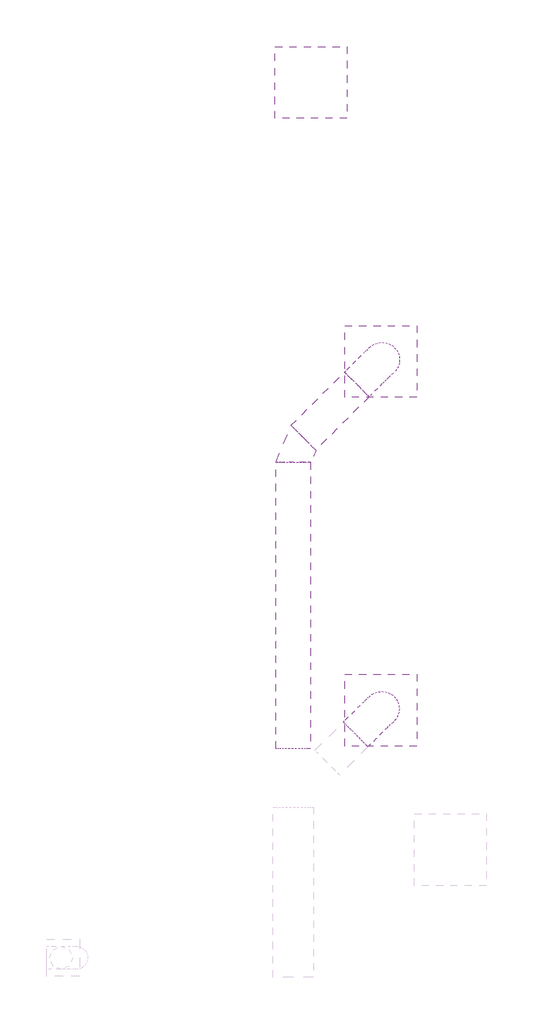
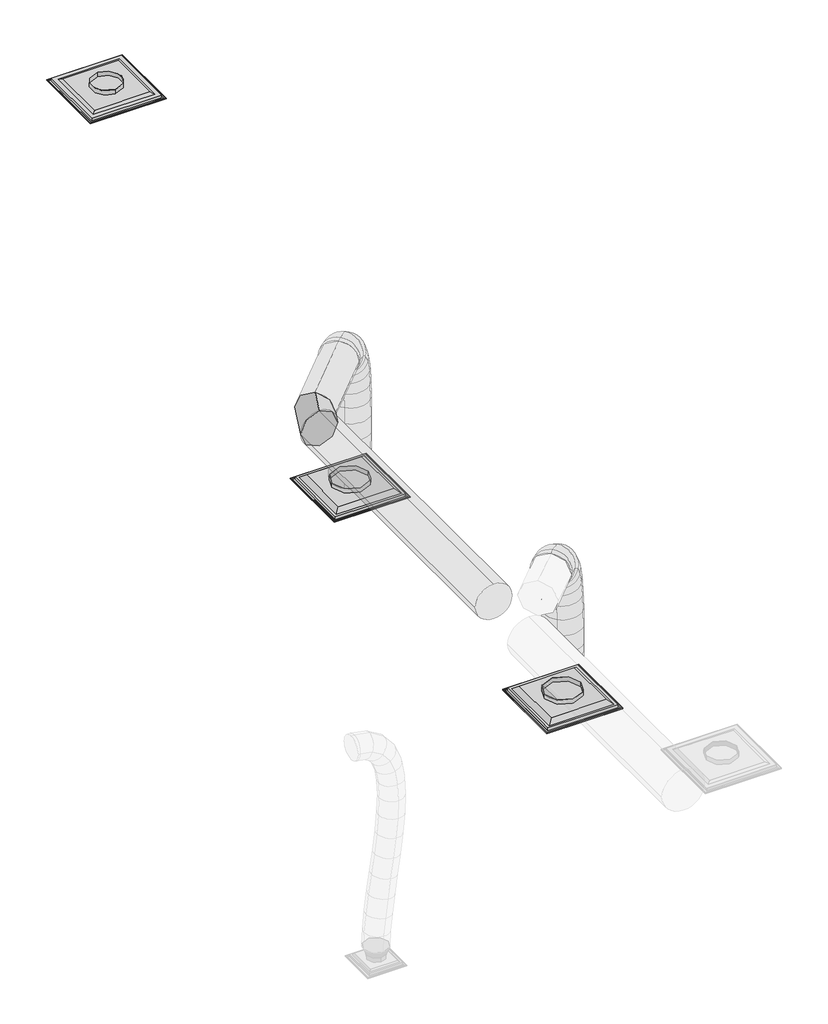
# One storey, part 33 of 33: 4 duct segments, 3 air terminals, 1 duct fitting.
"""IFC4 building model written with IfcOpenShell, lengths in millimetres."""

from ifc_helpers import new_model, si_unit, point, frame, frame_2d, origin, place, context, project, spatial, circle_curve, ellipse_curve, trimmed, segment, composite_curve, outline, extrude, transform, mapped, element, save
from ifc_brep_helpers import plane_surface, cylinder_surface, advanced_brep
from components import air_terminal_a17ada07, par_aa_10_24x24_32668ffe, round_elbow_1_d_28128332

model = new_model("IFC4")

# Units and contexts
model_context = context("Model", 3, world=origin())
ifc_project = project(units=[si_unit("LENGTHUNIT", "METRE", prefix="MILLI")], contexts=[model_context])

# Site, building, storey
site = spatial("IfcSite", under=ifc_project)
building = spatial("IfcBuilding", under=site)
storey = spatial("IfcBuildingStorey", under=building, Name="T.O. SLAB - 1ST", Elevation=-25.4)

# Air terminals
placement = place(None, origin())
air_terminal_shape = air_terminal_a17ada07(model_context)
element("IfcAirTerminal", 1, ObjectType="Titus-Round_Neck_Supply_Diffuser-PCS_Surface_Mount : PCS AA-12_24x24", at=placement, inside=storey, context=model_context, shape_type="MappedRepresentation", body=[
    mapped(air_terminal_shape, transform((36315.65, 32114.0074, 2717.8), x_axis=(1.0, 0.0, 0.0), y_axis=(0.0, -1.0, 0.0), z_axis=(0.0, 0.0, -1.0))),
])
element("IfcAirTerminal", 2, ObjectType="Titus-Round_Neck_Supply_Diffuser-PCS_Surface_Mount : PCS AA-12_24x24", at=placement, inside=storey, context=model_context, shape_type="MappedRepresentation", body=[
    mapped(air_terminal_shape, transform((36315.65, 35162.0115966, 2717.8), x_axis=(1.0, 0.0, 0.0), y_axis=(0.0, -1.0, 0.0), z_axis=(0.0, 0.0, -1.0))),
])
par_aa_10_24x24_shape = par_aa_10_24x24_32668ffe(model_context)
element("IfcAirTerminal", 3, ObjectType="Titus-Round_Neck_Return_Diffuser-PAR_Surface_Mount : PAR AA-10_24x24", at=placement, inside=storey, context=model_context, shape_type="MappedRepresentation", body=[
    mapped(par_aa_10_24x24_shape, transform((35706.05, 37600.4115966, 4940.3), x_axis=(0.0, 1.0, 0.0), y_axis=(1.0, 0.0, 0.0), z_axis=(0.0, 0.0, -1.0))),
])

# Duct fitting
round_elbow_1_d_shape = round_elbow_1_d_28128332(model_context)
element("IfcDuctFitting", 4, ObjectType="Round Elbow : 1 D", at=placement, inside=storey, context=model_context, shape_type="MappedRepresentation", body=[
    mapped(round_elbow_1_d_shape, transform((35550.5577376, 34405.4505335, 4038.6), x_axis=(-0.7071067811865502, -0.7071067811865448, 0.0), y_axis=(0.7071067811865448, -0.7071067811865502, 0.0), z_axis=(0.0, 0.0, 1.0))),
])

# Duct segments
element("IfcDuctSegment", 5, ObjectType="Flex - Round", at=placement, inside=storey, context=model_context, shape_type="AdvancedBrep", body=[
    advanced_brep(
    [(35989.1323964, 32010.5774552, 4038.6), (36096.8954698, 31902.8143818, 3886.2), (36204.6585433, 31795.0513083, 4038.6), (36096.8954698, 31902.8143818, 4191.0), (36009.0369028, 32030.4819617, 4038.6), (36103.0570382, 31908.9759502, 3886.2), (36224.3855459, 31814.778311, 4038.6), (36130.3654105, 31936.2843225, 4191.0), (36208.5394368, 32222.4190564, 2806.7), (36424.0616564, 32221.1179632, 2806.7), (36422.7605632, 32005.5957436, 2806.7), (36207.2383436, 32006.8968368, 2806.7), (36061.9271475, 32083.1954211, 4019.3682338), (36124.0534267, 31929.9021584, 3878.5653665), (36276.8737398, 31867.0910634, 4019.5144261), (36214.7474606, 32020.3843261, 4160.3172933), (36117.8859243, 32138.669622, 3965.2953316), (36147.6509234, 31953.2953122, 3855.7631323), (36332.4434791, 31922.1795957, 3965.8174504), (36302.67848, 32107.5539055, 4075.3496497), (36159.0898164, 32179.1501215, 3881.8520348), (36169.5588561, 31974.8186202, 3811.3966893), (36373.4313891, 31962.447905, 3882.8115458), (36362.9623493, 32166.7794063, 3953.2668913), (36187.6280716, 32206.7952475, 3774.5301494), (36190.2104341, 31994.8238893, 3733.7336972), (36401.8929392, 31990.0187264, 3775.7781201), (36399.3105766, 32201.9900846, 3816.5745723), (36205.6144768, 32223.7869036, 3648.7151011), (36205.3703268, 32009.1453549, 3627.6901264), (36419.8590599, 32006.9912198, 3650.1049618), (36420.1032099, 32221.6327685, 3671.1299364), (36215.1405559, 32232.2845895, 3509.7751558), (36214.017669, 32016.8591684, 3501.5667513), (36429.3829448, 32015.4869485, 3511.1970188), (36430.5058317, 32230.9123696, 3519.4054233), (36218.2860106, 32234.4360471, 3363.0861934), (36216.9893816, 32018.8917882, 3362.98029), (36432.5296096, 32017.6392337, 3364.4516254), (36433.8262386, 32233.1834926, 3364.5575287), (36217.1260603, 32232.3845933, 3214.0335204), (36215.8655594, 32016.9042296, 3218.5700508), (36431.3685521, 32015.585822, 3215.2566889), (36432.629053, 32231.0661857, 3210.7201586), (36213.7341977, 32228.271839, 3068.012225), (36212.5128461, 32012.8389452, 3074.234153), (36427.9709972, 32011.4661655, 3068.9903354), (36429.1923488, 32226.8990592, 3062.7684074), (36210.1826685, 32224.2381008, 2930.4296829), (36208.9247512, 32008.7636765, 2935.2350894), (36424.4094164, 32007.4210109, 2931.0184031), (36425.6673338, 32222.8954352, 2926.2129966), (36208.5394368, 32222.4190564, 2809.6290382), (36207.2383436, 32006.8968368, 2811.2604116), (36422.7605632, 32005.5957436, 2809.8045005), (36424.0616564, 32221.1179632, 2808.1731271)],
    [
        (0, 1, circle_curve(frame((36096.8954698, 31902.8143818, 4038.6), z_axis=(-0.7071067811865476, -0.7071067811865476, 0.0), x_axis=(-0.7071067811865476, 0.7071067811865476, 0.0)), 152.4)),
        (1, 2, circle_curve(frame((36096.8954698, 31902.8143818, 4038.6), z_axis=(-0.7071067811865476, -0.7071067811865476, 0.0), x_axis=(-0.7071067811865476, 0.7071067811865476, 0.0)), 152.4)),
        (2, 3, circle_curve(frame((36096.8954698, 31902.8143818, 4038.6), z_axis=(-0.7071067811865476, -0.7071067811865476, 0.0), x_axis=(-0.7071067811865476, 0.7071067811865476, 0.0)), 152.4)),
        (3, 0, circle_curve(frame((36096.8954698, 31902.8143818, 4038.6), z_axis=(-0.7071067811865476, -0.7071067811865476, 0.0), x_axis=(-0.7071067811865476, 0.7071067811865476, 0.0)), 152.4)),
        (0, 4),
        (4, 5, ellipse_curve(frame((36116.7112244, 31922.6301363, 4038.6), z_axis=(-0.7020756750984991, -0.7009201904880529, 0.12570056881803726), x_axis=(-0.08432597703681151, -0.09344522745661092, -0.9920469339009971)), 153.6185189, 152.4)),
        (5, 1),
        (5, 6, ellipse_curve(frame((36116.7112244, 31922.6301363, 4038.6), z_axis=(-0.7020756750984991, -0.7009201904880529, 0.12570056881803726), x_axis=(-0.08432597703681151, -0.09344522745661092, -0.9920469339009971)), 153.6185189, 152.4)),
        (6, 2),
        (6, 7, ellipse_curve(frame((36116.7112244, 31922.6301363, 4038.6), z_axis=(-0.7020756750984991, -0.7009201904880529, 0.12570056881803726), x_axis=(-0.08432597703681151, -0.09344522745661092, -0.9920469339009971)), 153.6185189, 152.4)),
        (7, 3),
        (7, 4, ellipse_curve(frame((36116.7112244, 31922.6301363, 4038.6), z_axis=(-0.7020756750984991, -0.7009201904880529, 0.12570056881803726), x_axis=(-0.08432597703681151, -0.09344522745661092, -0.9920469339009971)), 153.6185189, 152.4)),
        (8, 9, circle_curve(frame((36315.65, 32114.0074, 2806.7), z_axis=(0.0, 0.0, -1.0), x_axis=(-0.7028252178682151, 0.7113625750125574, 0.0)), 152.4)),
        (9, 10, circle_curve(frame((36315.65, 32114.0074, 2806.7), z_axis=(0.0, 0.0, -1.0), x_axis=(-0.7028252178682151, 0.7113625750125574, 0.0)), 152.4)),
        (10, 11, circle_curve(frame((36315.65, 32114.0074, 2806.7), z_axis=(0.0, 0.0, -1.0), x_axis=(-0.7028252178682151, 0.7113625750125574, 0.0)), 152.4)),
        (11, 8, circle_curve(frame((36315.65, 32114.0074, 2806.7), z_axis=(0.0, 0.0, -1.0), x_axis=(-0.7028252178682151, 0.7113625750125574, 0.0)), 152.4)),
        (4, 12),
        (12, 13, ellipse_curve(frame((36169.4004437, 31975.1432423, 4019.4413299), z_axis=(-0.6455569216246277, -0.6418183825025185, 0.4139147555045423), x_axis=(-0.2886918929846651, -0.29668389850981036, -0.9102942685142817)), 154.7552027, 152.4)),
        (13, 5),
        (13, 14, ellipse_curve(frame((36169.4004437, 31975.1432423, 4019.4413299), z_axis=(-0.6455569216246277, -0.6418183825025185, 0.4139147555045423), x_axis=(-0.2886918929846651, -0.29668389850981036, -0.9102942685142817)), 154.7552027, 152.4)),
        (14, 6),
        (14, 15, ellipse_curve(frame((36169.4004437, 31975.1432423, 4019.4413299), z_axis=(-0.6455569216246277, -0.6418183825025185, 0.4139147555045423), x_axis=(-0.2886918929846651, -0.29668389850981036, -0.9102942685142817)), 154.7552027, 152.4)),
        (15, 7),
        (15, 12, ellipse_curve(frame((36169.4004437, 31975.1432423, 4019.4413299), z_axis=(-0.6455569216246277, -0.6418183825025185, 0.4139147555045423), x_axis=(-0.2886918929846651, -0.29668389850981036, -0.9102942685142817)), 154.7552027, 152.4)),
        (12, 16),
        (16, 17, ellipse_curve(frame((36225.1647017, 32030.4246089, 3965.556391), z_axis=(-0.5041044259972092, -0.49790270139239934, 0.7056710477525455), x_axis=(-0.49615170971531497, -0.5018370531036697, -0.7085146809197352)), 154.9577393, 152.4)),
        (17, 13),
        (17, 18, ellipse_curve(frame((36225.1647017, 32030.4246089, 3965.556391), z_axis=(-0.5041044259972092, -0.49790270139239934, 0.7056710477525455), x_axis=(-0.49615170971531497, -0.5018370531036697, -0.7085146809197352)), 154.9577393, 152.4)),
        (18, 14),
        (18, 19, ellipse_curve(frame((36225.1647017, 32030.4246089, 3965.556391), z_axis=(-0.5041044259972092, -0.49790270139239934, 0.7056710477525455), x_axis=(-0.49615170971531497, -0.5018370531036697, -0.7085146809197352)), 154.9577393, 152.4)),
        (19, 15),
        (19, 16, ellipse_curve(frame((36225.1647017, 32030.4246089, 3965.556391), z_axis=(-0.5041044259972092, -0.49790270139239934, 0.7056710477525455), x_axis=(-0.49615170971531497, -0.5018370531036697, -0.7085146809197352)), 154.9577393, 152.4)),
        (16, 20),
        (20, 21, ellipse_curve(frame((36266.2606027, 32070.7990133, 3882.3317903), z_axis=(-0.33028687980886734, -0.3227615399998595, 0.8869811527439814), x_axis=(-0.6258505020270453, -0.6285523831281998, -0.46177164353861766)), 153.6074949, 152.4)),
        (21, 17),
        (21, 22, ellipse_curve(frame((36266.2606027, 32070.7990133, 3882.3317903), z_axis=(-0.33028687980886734, -0.3227615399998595, 0.8869811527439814), x_axis=(-0.6258505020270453, -0.6285523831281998, -0.46177164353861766)), 153.6074949, 152.4)),
        (22, 18),
        (22, 23, ellipse_curve(frame((36266.2606027, 32070.7990133, 3882.3317903), z_axis=(-0.33028687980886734, -0.3227615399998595, 0.8869811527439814), x_axis=(-0.6258505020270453, -0.6285523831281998, -0.46177164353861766)), 153.6074949, 152.4)),
        (23, 19),
        (23, 20, ellipse_curve(frame((36266.2606027, 32070.7990133, 3882.3317903), z_axis=(-0.33028687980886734, -0.3227615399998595, 0.8869811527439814), x_axis=(-0.6258505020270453, -0.6285523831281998, -0.46177164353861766)), 153.6074949, 152.4)),
        (20, 24),
        (24, 25, ellipse_curve(frame((36294.7605054, 32098.406987, 3775.1541348), z_axis=(-0.19545028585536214, -0.1876441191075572, 0.9625948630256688), x_axis=(-0.6808124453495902, -0.6805225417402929, -0.2708938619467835)), 152.8915659, 152.4)),
        (25, 21),
        (25, 26, ellipse_curve(frame((36294.7605054, 32098.406987, 3775.1541348), z_axis=(-0.19545028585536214, -0.1876441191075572, 0.9625948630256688), x_axis=(-0.6808124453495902, -0.6805225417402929, -0.2708938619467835)), 152.8915659, 152.4)),
        (26, 22),
        (26, 27, ellipse_curve(frame((36294.7605054, 32098.406987, 3775.1541348), z_axis=(-0.19545028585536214, -0.1876441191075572, 0.9625948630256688), x_axis=(-0.6808124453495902, -0.6805225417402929, -0.2708938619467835)), 152.8915659, 152.4)),
        (27, 23),
        (27, 24, ellipse_curve(frame((36294.7605054, 32098.406987, 3775.1541348), z_axis=(-0.19545028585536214, -0.1876441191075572, 0.9625948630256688), x_axis=(-0.6808124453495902, -0.6805225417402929, -0.2708938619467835)), 152.8915659, 152.4)),
        (24, 28),
        (28, 29, ellipse_curve(frame((36312.7367684, 32115.3890617, 3649.4100314), z_axis=(-0.10441105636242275, -0.09683683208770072, 0.989808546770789), x_axis=(-0.7017934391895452, -0.6980194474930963, -0.14231942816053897)), 152.6008934, 152.4)),
        (29, 25),
        (29, 30, ellipse_curve(frame((36312.7367684, 32115.3890617, 3649.4100314), z_axis=(-0.10441105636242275, -0.09683683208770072, 0.989808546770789), x_axis=(-0.7017934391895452, -0.6980194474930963, -0.14231942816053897)), 152.6008934, 152.4)),
        (30, 26),
        (30, 31, ellipse_curve(frame((36312.7367684, 32115.3890617, 3649.4100314), z_axis=(-0.10441105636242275, -0.09683683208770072, 0.989808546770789), x_axis=(-0.7017934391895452, -0.6980194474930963, -0.14231942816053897)), 152.6008934, 152.4)),
        (31, 27),
        (31, 28, ellipse_curve(frame((36312.7367684, 32115.3890617, 3649.4100314), z_axis=(-0.10441105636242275, -0.09683683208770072, 0.989808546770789), x_axis=(-0.7017934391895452, -0.6980194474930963, -0.14231942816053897)), 152.6008934, 152.4)),
        (28, 32),
        (32, 33, ellipse_curve(frame((36322.2617504, 32123.885769, 3510.4860873), z_axis=(-0.044879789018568, -0.037803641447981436, 0.9982768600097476), x_axis=(-0.7104066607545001, -0.701356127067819, -0.058497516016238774)), 152.4828809, 152.4)),
        (33, 29),
        (33, 34, ellipse_curve(frame((36322.2617504, 32123.885769, 3510.4860873), z_axis=(-0.044879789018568, -0.037803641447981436, 0.9982768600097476), x_axis=(-0.7104066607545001, -0.701356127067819, -0.058497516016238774)), 152.4828809, 152.4)),
        (34, 30),
        (34, 35, ellipse_curve(frame((36322.2617504, 32123.885769, 3510.4860873), z_axis=(-0.044879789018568, -0.037803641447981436, 0.9982768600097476), x_axis=(-0.7104066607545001, -0.701356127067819, -0.058497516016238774)), 152.4828809, 152.4)),
        (35, 31),
        (35, 32, ellipse_curve(frame((36322.2617504, 32123.885769, 3510.4860873), z_axis=(-0.044879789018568, -0.037803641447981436, 0.9982768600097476), x_axis=(-0.7104066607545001, -0.701356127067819, -0.058497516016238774)), 152.4828809, 152.4)),
        (32, 36),
        (36, 37, ellipse_curve(frame((36325.4078101, 32126.0376404, 3363.7689094), z_axis=(-0.006828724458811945, -0.0004502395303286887, 0.9999765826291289), x_axis=(-0.716764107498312, -0.6972962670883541, -0.005208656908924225)), 152.4316627, 152.4)),
        (37, 33),
        (37, 38, ellipse_curve(frame((36325.4078101, 32126.0376404, 3363.7689094), z_axis=(-0.006828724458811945, -0.0004502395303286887, 0.9999765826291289), x_axis=(-0.716764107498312, -0.6972962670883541, -0.005208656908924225)), 152.4316627, 152.4)),
        (38, 34),
        (38, 39, ellipse_curve(frame((36325.4078101, 32126.0376404, 3363.7689094), z_axis=(-0.006828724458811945, -0.0004502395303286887, 0.9999765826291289), x_axis=(-0.716764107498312, -0.6972962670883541, -0.005208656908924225)), 152.4316627, 152.4)),
        (39, 35),
        (39, 36, ellipse_curve(frame((36325.4078101, 32126.0376404, 3363.7689094), z_axis=(-0.006828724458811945, -0.0004502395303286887, 0.9999765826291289), x_axis=(-0.716764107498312, -0.6972962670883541, -0.005208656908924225)), 152.4316627, 152.4)),
        (36, 40),
        (40, 41, ellipse_curve(frame((36324.2473062, 32123.9852076, 3214.6451047), z_axis=(0.015497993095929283, 0.02095529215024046, 0.9996602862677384), x_axis=(-0.7312400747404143, -0.6816386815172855, 0.02562539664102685)), 152.408485, 152.4)),
        (41, 37),
        (41, 42, ellipse_curve(frame((36324.2473062, 32123.9852076, 3214.6451047), z_axis=(0.015497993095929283, 0.02095529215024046, 0.9996602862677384), x_axis=(-0.7312400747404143, -0.6816386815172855, 0.02562539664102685)), 152.408485, 152.4)),
        (42, 38),
        (42, 43, ellipse_curve(frame((36324.2473062, 32123.9852076, 3214.6451047), z_axis=(0.015497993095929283, 0.02095529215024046, 0.9996602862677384), x_axis=(-0.7312400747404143, -0.6816386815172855, 0.02562539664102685)), 152.408485, 152.4)),
        (43, 39),
        (43, 40, ellipse_curve(frame((36324.2473062, 32123.9852076, 3214.6451047), z_axis=(0.015497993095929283, 0.02095529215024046, 0.9996602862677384), x_axis=(-0.7312400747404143, -0.6816386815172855, 0.02562539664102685)), 152.408485, 152.4)),
        (40, 44),
        (44, 45, ellipse_curve(frame((36320.8525974, 32119.8690022, 3068.5012802), z_axis=(0.02450363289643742, 0.028721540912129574, 0.9992870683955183), x_axis=(-0.9129511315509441, -0.4066437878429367, 0.03407434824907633)), 152.4001523, 152.4)),
        (45, 41),
        (45, 46, ellipse_curve(frame((36320.8525974, 32119.8690022, 3068.5012802), z_axis=(0.02450363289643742, 0.028721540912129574, 0.9992870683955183), x_axis=(-0.9129511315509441, -0.4066437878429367, 0.03407434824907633)), 152.4001523, 152.4)),
        (46, 42),
        (46, 47, ellipse_curve(frame((36320.8525974, 32119.8690022, 3068.5012802), z_axis=(0.02450363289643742, 0.028721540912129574, 0.9992870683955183), x_axis=(-0.9129511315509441, -0.4066437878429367, 0.03407434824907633)), 152.4001523, 152.4)),
        (47, 43),
        (47, 44, ellipse_curve(frame((36320.8525974, 32119.8690022, 3068.5012802), z_axis=(0.02450363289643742, 0.028721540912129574, 0.9992870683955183), x_axis=(-0.9129511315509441, -0.4066437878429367, 0.03407434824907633)), 152.4001523, 152.4)),
        (44, 48),
        (48, 49, ellipse_curve(frame((36317.2960425, 32115.8295558, 2930.724043), z_axis=(0.019697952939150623, 0.022176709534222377, 0.9995599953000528), x_axis=(0.6501163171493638, 0.7592557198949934, -0.02965680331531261)), 152.4067026, 152.4)),
        (49, 45),
        (49, 50, ellipse_curve(frame((36317.2960425, 32115.8295558, 2930.724043), z_axis=(0.019697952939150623, 0.022176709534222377, 0.9995599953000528), x_axis=(0.6501163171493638, 0.7592557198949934, -0.02965680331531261)), 152.4067026, 152.4)),
        (50, 46),
        (50, 51, ellipse_curve(frame((36317.2960425, 32115.8295558, 2930.724043), z_axis=(0.019697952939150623, 0.022176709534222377, 0.9995599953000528), x_axis=(0.6501163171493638, 0.7592557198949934, -0.02965680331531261)), 152.4067026, 152.4)),
        (51, 47),
        (51, 48, ellipse_curve(frame((36317.2960425, 32115.8295558, 2930.724043), z_axis=(0.019697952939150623, 0.022176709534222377, 0.9995599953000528), x_axis=(0.6501163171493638, 0.7592557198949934, -0.02965680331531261)), 152.4067026, 152.4)),
        (48, 52),
        (52, 53, ellipse_curve(frame((36315.65, 32114.0074, 2809.7167694), z_axis=(0.006800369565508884, 0.007527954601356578, 0.9999485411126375), x_axis=(0.6703020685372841, 0.7420190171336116, -0.010144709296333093)), 152.4078427, 152.4)),
        (53, 49),
        (53, 54, ellipse_curve(frame((36315.65, 32114.0074, 2809.7167694), z_axis=(0.006800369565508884, 0.007527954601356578, 0.9999485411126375), x_axis=(0.6703020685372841, 0.7420190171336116, -0.010144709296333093)), 152.4078427, 152.4)),
        (54, 50),
        (54, 55, ellipse_curve(frame((36315.65, 32114.0074, 2809.7167694), z_axis=(0.006800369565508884, 0.007527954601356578, 0.9999485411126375), x_axis=(0.6703020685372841, 0.7420190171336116, -0.010144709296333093)), 152.4078427, 152.4)),
        (55, 51),
        (55, 52, ellipse_curve(frame((36315.65, 32114.0074, 2809.7167694), z_axis=(0.006800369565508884, 0.007527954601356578, 0.9999485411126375), x_axis=(0.6703020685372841, 0.7420190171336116, -0.010144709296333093)), 152.4078427, 152.4)),
        (52, 8),
        (11, 53),
        (10, 54),
        (9, 55),
    ],
    [
        plane_surface(frame((36096.8954698, 31902.8143818, 4191.0), z_axis=(-0.7071067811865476, -0.7071067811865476, 0.0), x_axis=(0.7071067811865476, -0.7071067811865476, 0.0))),
        cylinder_surface(frame((36096.8954698, 31902.8143818, 4038.6), z_axis=(-0.7071067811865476, -0.7071067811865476, 0.0), x_axis=(-0.7071067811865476, 0.7071067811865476, 0.0)), 152.4),
        plane_surface(frame((36315.65, 31961.6074, 2806.7), z_axis=(0.0, 0.0, -1.0), x_axis=(-1.0, 0.0, 0.0))),
        cylinder_surface(frame((36116.7112244, 31922.6301363, 4038.6), z_axis=(-0.6859066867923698, -0.6836140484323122, 0.24940699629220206), x_axis=(-0.7059595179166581, 0.7082521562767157, -0.00020540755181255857)), 152.4),
        cylinder_surface(frame((36169.4004437, 31975.1432423, 4019.4413299), z_axis=(-0.5855578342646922, -0.580487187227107, 0.5658238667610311), x_axis=(-0.7045615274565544, 0.7096420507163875, -0.0011017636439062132)), 152.4),
        cylinder_surface(frame((36225.1647017, 32030.4246089, 3965.556391), z_axis=(-0.4060094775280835, -0.398881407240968, 0.822222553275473), x_axis=(-0.7034903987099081, 0.7107000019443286, -0.002601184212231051)), 152.4),
        cylinder_surface(frame((36266.2606027, 32070.7990133, 3882.3317903), z_axis=(-0.24937157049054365, -0.2415672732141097, 0.9377947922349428), x_axis=(-0.7030545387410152, 0.7111259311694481, -0.00377168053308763)), 152.4),
        cylinder_surface(frame((36294.7605054, 32098.406987, 3775.1541348), z_axis=(-0.1402722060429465, -0.13251436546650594, 0.9812052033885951), x_axis=(-0.7029204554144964, 0.7112546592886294, -0.004432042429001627)), 152.4),
        cylinder_surface(frame((36312.7367684, 32115.3890617, 3649.4100314), z_axis=(-0.06827500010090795, -0.06090433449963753, 0.9958057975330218), x_axis=(-0.7028932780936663, 0.7112798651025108, -0.00468968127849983)), 152.4),
        cylinder_surface(frame((36322.2617504, 32123.885769, 3510.4860873), z_axis=(-0.0214357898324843, -0.014661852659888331, 0.9996627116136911), x_axis=(-0.7028955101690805, 0.711277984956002, -0.00464003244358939)), 152.4),
        cylinder_surface(frame((36325.4078101, 32126.0376404, 3363.7689094), z_axis=(0.007781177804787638, 0.013761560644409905, 0.9998750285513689), x_axis=(-0.7028976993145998, 0.7112778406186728, -0.004319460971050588)), 152.4),
        cylinder_surface(frame((36324.2473062, 32123.9852076, 3214.6451047), z_axis=(0.023213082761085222, 0.028146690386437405, 0.999334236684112), x_axis=(-0.7028882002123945, 0.7112906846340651, -0.003706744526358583)), 152.4),
        cylinder_surface(frame((36320.8525974, 32119.8690022, 3068.5012802), z_axis=(0.025794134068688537, 0.029296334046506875, 0.9992379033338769), x_axis=(-0.7028637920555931, 0.7113192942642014, -0.0027113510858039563)), 152.4),
        cylinder_surface(frame((36317.2960425, 32115.8295558, 2930.724043), z_axis=(0.013600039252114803, 0.0150551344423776, 0.9997941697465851), x_axis=(-0.7028330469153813, 0.7113539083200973, -0.0011512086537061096)), 152.4),
        cylinder_surface(frame((36315.65, 32114.0074, 2809.7167694), z_axis=(0.0, 0.0, 1.0), x_axis=(-0.7028252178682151, 0.7113625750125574, 0.0)), 152.4),
    ],
    [
        (0, [[1, 2, 3, 4]]),
        (1, [[-1, 5, 6, 7]]),
        (1, [[-2, -7, 8, 9]]),
        (1, [[-3, -9, 10, 11]]),
        (1, [[-4, -11, 12, -5]]),
        (2, [[13, 14, 15, 16]]),
        (3, [[-6, 17, 18, 19]]),
        (3, [[-8, -19, 20, 21]]),
        (3, [[-10, -21, 22, 23]]),
        (3, [[-12, -23, 24, -17]]),
        (4, [[-18, 25, 26, 27]]),
        (4, [[-20, -27, 28, 29]]),
        (4, [[-22, -29, 30, 31]]),
        (4, [[-24, -31, 32, -25]]),
        (5, [[-26, 33, 34, 35]]),
        (5, [[-28, -35, 36, 37]]),
        (5, [[-30, -37, 38, 39]]),
        (5, [[-32, -39, 40, -33]]),
        (6, [[-34, 41, 42, 43]]),
        (6, [[-36, -43, 44, 45]]),
        (6, [[-38, -45, 46, 47]]),
        (6, [[-40, -47, 48, -41]]),
        (7, [[-42, 49, 50, 51]]),
        (7, [[-44, -51, 52, 53]]),
        (7, [[-46, -53, 54, 55]]),
        (7, [[-48, -55, 56, -49]]),
        (8, [[-50, 57, 58, 59]]),
        (8, [[-52, -59, 60, 61]]),
        (8, [[-54, -61, 62, 63]]),
        (8, [[-56, -63, 64, -57]]),
        (9, [[-58, 65, 66, 67]]),
        (9, [[-60, -67, 68, 69]]),
        (9, [[-62, -69, 70, 71]]),
        (9, [[-64, -71, 72, -65]]),
        (10, [[-66, 73, 74, 75]]),
        (10, [[-68, -75, 76, 77]]),
        (10, [[-70, -77, 78, 79]]),
        (10, [[-72, -79, 80, -73]]),
        (11, [[-74, 81, 82, 83]]),
        (11, [[-76, -83, 84, 85]]),
        (11, [[-78, -85, 86, 87]]),
        (11, [[-80, -87, 88, -81]]),
        (12, [[-82, 89, 90, 91]]),
        (12, [[-84, -91, 92, 93]]),
        (12, [[-86, -93, 94, 95]]),
        (12, [[-88, -95, 96, -89]]),
        (13, [[-90, 97, 98, 99]]),
        (13, [[-92, -99, 100, 101]]),
        (13, [[-94, -101, 102, 103]]),
        (13, [[-96, -103, 104, -97]]),
        (14, [[-98, 105, -16, 106]]),
        (14, [[-100, -106, -15, 107]]),
        (14, [[-102, -107, -14, 108]]),
        (14, [[-104, -108, -13, -105]]),
    ],
),
])
element("IfcDuctSegment", 6, ObjectType="Flex - Round", at=placement, inside=storey, context=model_context, shape_type="AdvancedBrep", body=[
    advanced_brep(
    [(35999.5705437, 35069.9894864, 4038.6), (36107.3336172, 34962.226413, 3886.2), (36215.0966906, 34854.4633395, 4038.6), (36107.3336172, 34962.226413, 4191.0), (36019.6334202, 35090.0523629, 4038.6), (36113.4717342, 34968.36453, 3886.2), (36234.957103, 34874.3237519, 4038.6), (36141.1187891, 34996.0115849, 4191.0), (36208.6289505, 35270.5116195, 2806.7), (36424.1500229, 35269.0326461, 2806.7), (36422.6710495, 35053.5115737, 2806.7), (36207.1499771, 35054.9905471, 2806.7), (36071.9711664, 35142.1905368, 4019.329798), (36133.5013922, 34988.3178117, 3878.8252928), (36286.8363058, 34926.0051309, 4019.4986288), (36225.30608, 35079.877856, 4160.0031341), (36127.1714022, 35196.8437606, 3965.1570219), (36155.9930706, 35010.5866067, 3856.7522592), (36341.5936287, 34980.2198309, 3965.7605215), (36312.7719603, 35166.4769849, 4074.1652842), (36167.3350296, 35236.1909024, 3881.5825495), (36176.944329, 35031.1119473, 3813.1558392), (36381.5148049, 35019.3294502, 3882.6905537), (36371.9055054, 35224.4084052, 3951.1172641), (36194.6378394, 35262.4858586, 3774.1318312), (36196.6245595, 35050.0657035, 3735.7039243), (36408.7339679, 35045.5438473, 3775.5690292), (36406.7472478, 35257.9640024, 3813.9969361), (36211.2829358, 35278.0085598, 3648.204771), (36210.6571008, 35063.1520168, 3629.5419269), (36425.357938, 35061.0468469, 3649.8017975), (36425.9837729, 35275.9033899, 3668.4646416), (36219.4469885, 35285.0123283, 3509.1822698), (36218.0776496, 35069.517949, 3503.1802676), (36433.5199696, 35068.0488816, 3510.8137116), (36434.8893085, 35283.543261, 3516.8157138), (36221.2930868, 35285.7369959, 3362.4546854), (36219.8247049, 35070.2037382, 3364.3246019), (36435.3668979, 35068.773875, 3364.0201674), (36436.8352798, 35284.3071327, 3362.1502509), (36218.9793021, 35282.4174529, 3213.4234415), (36217.578425, 35066.981043, 3219.6413539), (36433.0505758, 35065.4506917, 3214.8254951), (36434.4514529, 35280.8871015, 3208.6075827), (36214.6617957, 35277.2867072, 3067.5012808), (36213.299443, 35061.8960782, 3075.0212327), (36428.7247663, 35060.3100789, 3068.6227058), (36430.0871189, 35275.7007079, 3061.1027539), (36210.495248, 35272.5762237, 2930.1148267), (36209.0739922, 35057.1190018, 2935.6925244), (36424.5447132, 35055.5843269, 2930.7909297), (36425.965969, 35271.0415488, 2925.213232), (36208.6289505, 35270.5116195, 2810.0321761), (36207.1499771, 35054.9905471, 2811.8961665), (36422.6710495, 35053.5115737, 2810.2343138), (36424.1500229, 35269.0326461, 2808.3703234)],
    [
        (0, 1, circle_curve(frame((36107.3336172, 34962.226413, 4038.6), z_axis=(-0.7071067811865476, -0.7071067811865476, 0.0), x_axis=(-0.7071067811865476, 0.7071067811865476, 0.0)), 152.4)),
        (1, 2, circle_curve(frame((36107.3336172, 34962.226413, 4038.6), z_axis=(-0.7071067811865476, -0.7071067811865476, 0.0), x_axis=(-0.7071067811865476, 0.7071067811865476, 0.0)), 152.4)),
        (2, 3, circle_curve(frame((36107.3336172, 34962.226413, 4038.6), z_axis=(-0.7071067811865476, -0.7071067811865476, 0.0), x_axis=(-0.7071067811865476, 0.7071067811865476, 0.0)), 152.4)),
        (3, 0, circle_curve(frame((36107.3336172, 34962.226413, 4038.6), z_axis=(-0.7071067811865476, -0.7071067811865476, 0.0), x_axis=(-0.7071067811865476, 0.7071067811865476, 0.0)), 152.4)),
        (0, 4),
        (4, 5, ellipse_curve(frame((36127.2952616, 34982.1880574, 4038.6), z_axis=(-0.7020184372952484, -0.7007007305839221, 0.12723442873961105), x_axis=(-0.08483470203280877, -0.09510677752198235, -0.991845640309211)), 153.6488214, 152.4)),
        (5, 1),
        (5, 6, ellipse_curve(frame((36127.2952616, 34982.1880574, 4038.6), z_axis=(-0.7020184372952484, -0.7007007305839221, 0.12723442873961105), x_axis=(-0.08483470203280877, -0.09510677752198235, -0.991845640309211)), 153.6488214, 152.4)),
        (6, 2),
        (6, 7, ellipse_curve(frame((36127.2952616, 34982.1880574, 4038.6), z_axis=(-0.7020184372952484, -0.7007007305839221, 0.12723442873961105), x_axis=(-0.08483470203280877, -0.09510677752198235, -0.991845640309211)), 153.6488214, 152.4)),
        (7, 3),
        (7, 4, ellipse_curve(frame((36127.2952616, 34982.1880574, 4038.6), z_axis=(-0.7020184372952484, -0.7007007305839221, 0.12723442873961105), x_axis=(-0.08483470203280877, -0.09510677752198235, -0.991845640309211)), 153.6488214, 152.4)),
        (8, 9, circle_curve(frame((36315.65, 35162.0115966, 2806.7), z_axis=(0.0, 0.0, -1.0), x_axis=(-0.7022378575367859, 0.7119424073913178, 0.0)), 152.4)),
        (9, 10, circle_curve(frame((36315.65, 35162.0115966, 2806.7), z_axis=(0.0, 0.0, -1.0), x_axis=(-0.7022378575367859, 0.7119424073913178, 0.0)), 152.4)),
        (10, 11, circle_curve(frame((36315.65, 35162.0115966, 2806.7), z_axis=(0.0, 0.0, -1.0), x_axis=(-0.7022378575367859, 0.7119424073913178, 0.0)), 152.4)),
        (11, 8, circle_curve(frame((36315.65, 35162.0115966, 2806.7), z_axis=(0.0, 0.0, -1.0), x_axis=(-0.7022378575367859, 0.7119424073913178, 0.0)), 152.4)),
        (4, 12),
        (12, 13, ellipse_curve(frame((36179.4037361, 35034.0978338, 4019.4142134), z_axis=(-0.6442523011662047, -0.6399907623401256, 0.41874908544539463), x_axis=(-0.2916161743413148, -0.3005997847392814, -0.9080747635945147)), 154.8163971, 152.4)),
        (13, 5),
        (13, 14, ellipse_curve(frame((36179.4037361, 35034.0978338, 4019.4142134), z_axis=(-0.6442523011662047, -0.6399907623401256, 0.41874908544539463), x_axis=(-0.2916161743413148, -0.3005997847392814, -0.9080747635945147)), 154.8163971, 152.4)),
        (14, 6),
        (14, 15, ellipse_curve(frame((36179.4037361, 35034.0978338, 4019.4142134), z_axis=(-0.6442523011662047, -0.6399907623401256, 0.41874908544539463), x_axis=(-0.2916161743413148, -0.3005997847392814, -0.9080747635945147)), 154.8163971, 152.4)),
        (15, 7),
        (15, 12, ellipse_curve(frame((36179.4037361, 35034.0978338, 4019.4142134), z_axis=(-0.6442523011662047, -0.6399907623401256, 0.41874908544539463), x_axis=(-0.2916161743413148, -0.3005997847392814, -0.9080747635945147)), 154.8163971, 152.4)),
        (12, 16),
        (16, 17, ellipse_curve(frame((36234.3825154, 35088.5317958, 3965.4587717), z_axis=(-0.49930861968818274, -0.49224739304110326, 0.7130101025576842), x_axis=(-0.5010170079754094, -0.5073561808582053, -0.701121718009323)), 155.0403142, 152.4)),
        (17, 13),
        (17, 18, ellipse_curve(frame((36234.3825154, 35088.5317958, 3965.4587717), z_axis=(-0.49930861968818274, -0.49224739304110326, 0.7130101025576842), x_axis=(-0.5010170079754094, -0.5073561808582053, -0.701121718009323)), 155.0403142, 152.4)),
        (18, 14),
        (18, 19, ellipse_curve(frame((36234.3825154, 35088.5317958, 3965.4587717), z_axis=(-0.49930861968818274, -0.49224739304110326, 0.7130101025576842), x_axis=(-0.5010170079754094, -0.5073561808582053, -0.701121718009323)), 155.0403142, 152.4)),
        (19, 15),
        (19, 16, ellipse_curve(frame((36234.3825154, 35088.5317958, 3965.4587717), z_axis=(-0.49930861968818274, -0.49224739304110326, 0.7130101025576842), x_axis=(-0.5010170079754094, -0.5073561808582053, -0.701121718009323)), 155.0403142, 152.4)),
        (16, 20),
        (20, 21, ellipse_curve(frame((36274.4249172, 35127.7601763, 3882.1365516), z_axis=(-0.3217520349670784, -0.31320806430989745, 0.8935190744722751), x_axis=(-0.6303626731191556, -0.6332924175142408, -0.4489806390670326)), 153.6284389, 152.4)),
        (21, 17),
        (21, 22, ellipse_curve(frame((36274.4249172, 35127.7601763, 3882.1365516), z_axis=(-0.3217520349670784, -0.31320806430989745, 0.8935190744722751), x_axis=(-0.6303626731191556, -0.6332924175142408, -0.4489806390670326)), 153.6284389, 152.4)),
        (22, 18),
        (22, 23, ellipse_curve(frame((36274.4249172, 35127.7601763, 3882.1365516), z_axis=(-0.3217520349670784, -0.31320806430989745, 0.8935190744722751), x_axis=(-0.6303626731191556, -0.6332924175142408, -0.4489806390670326)), 153.6284389, 152.4)),
        (23, 19),
        (23, 20, ellipse_curve(frame((36274.4249172, 35127.7601763, 3882.1365516), z_axis=(-0.3217520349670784, -0.31320806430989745, 0.8935190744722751), x_axis=(-0.6303626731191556, -0.6332924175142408, -0.4489806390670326)), 153.6284389, 152.4)),
        (20, 24),
        (24, 25, ellipse_curve(frame((36301.6859036, 35154.014853, 3774.8504302), z_axis=(-0.18544376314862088, -0.1766071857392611, 0.9666542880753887), x_axis=(-0.6837731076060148, -0.683308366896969, -0.2560156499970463)), 152.8913475, 152.4)),
        (25, 21),
        (25, 26, ellipse_curve(frame((36301.6859036, 35154.014853, 3774.8504302), z_axis=(-0.18544376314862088, -0.1766071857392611, 0.9666542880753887), x_axis=(-0.6837731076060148, -0.683308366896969, -0.2560156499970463)), 152.8913475, 152.4)),
        (26, 22),
        (26, 27, ellipse_curve(frame((36301.6859036, 35154.014853, 3774.8504302), z_axis=(-0.18544376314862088, -0.1766071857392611, 0.9666542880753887), x_axis=(-0.6837731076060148, -0.683308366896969, -0.2560156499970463)), 152.8913475, 152.4)),
        (27, 23),
        (27, 24, ellipse_curve(frame((36301.6859036, 35154.014853, 3774.8504302), z_axis=(-0.18544376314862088, -0.1766071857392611, 0.9666542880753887), x_axis=(-0.6837731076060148, -0.683308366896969, -0.2560156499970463)), 152.8913475, 152.4)),
        (24, 28),
        (28, 29, ellipse_curve(frame((36318.3204369, 35169.5277033, 3649.0032842), z_axis=(-0.09443342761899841, -0.08587631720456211, 0.9918203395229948), x_axis=(-0.7035428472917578, -0.6991183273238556, -0.1275187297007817)), 152.5972658, 152.4)),
        (29, 25),
        (29, 30, ellipse_curve(frame((36318.3204369, 35169.5277033, 3649.0032842), z_axis=(-0.09443342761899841, -0.08587631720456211, 0.9918203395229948), x_axis=(-0.7035428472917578, -0.6991183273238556, -0.1275187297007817)), 152.5972658, 152.4)),
        (30, 26),
        (30, 31, ellipse_curve(frame((36318.3204369, 35169.5277033, 3649.0032842), z_axis=(-0.09443342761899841, -0.08587631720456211, 0.9918203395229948), x_axis=(-0.7035428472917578, -0.6991183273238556, -0.1275187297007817)), 152.5972658, 152.4)),
        (31, 27),
        (31, 28, ellipse_curve(frame((36318.3204369, 35169.5277033, 3649.0032842), z_axis=(-0.09443342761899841, -0.08587631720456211, 0.9918203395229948), x_axis=(-0.7035428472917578, -0.6991183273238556, -0.1275187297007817)), 152.5972658, 152.4)),
        (28, 32),
        (32, 33, ellipse_curve(frame((36326.4834791, 35176.530605, 3509.9979907), z_axis=(-0.03558373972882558, -0.027597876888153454, 0.9989855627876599), x_axis=(-0.711634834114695, -0.7011249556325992, -0.04471755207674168)), 152.479552, 152.4)),
        (33, 29),
        (33, 34, ellipse_curve(frame((36326.4834791, 35176.530605, 3509.9979907), z_axis=(-0.03558373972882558, -0.027597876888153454, 0.9989855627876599), x_axis=(-0.711634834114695, -0.7011249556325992, -0.04471755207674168)), 152.479552, 152.4)),
        (34, 30),
        (34, 35, ellipse_curve(frame((36326.4834791, 35176.530605, 3509.9979907), z_axis=(-0.03558373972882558, -0.027597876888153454, 0.9989855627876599), x_axis=(-0.711634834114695, -0.7011249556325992, -0.04471755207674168)), 152.479552, 152.4)),
        (35, 31),
        (35, 32, ellipse_curve(frame((36326.4834791, 35176.530605, 3509.9979907), z_axis=(-0.03558373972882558, -0.027597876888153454, 0.9989855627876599), x_axis=(-0.711634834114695, -0.7011249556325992, -0.04471755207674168)), 152.479552, 152.4)),
        (32, 36),
        (36, 37, ellipse_curve(frame((36328.3299924, 35177.2554354, 3363.2374264), z_axis=(0.0014698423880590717, 0.008665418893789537, 0.9999613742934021), x_axis=(-0.7184515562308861, -0.6955409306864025, 0.0070834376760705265)), 152.4291508, 152.4)),
        (37, 33),
        (37, 38, ellipse_curve(frame((36328.3299924, 35177.2554354, 3363.2374264), z_axis=(0.0014698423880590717, 0.008665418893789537, 0.9999613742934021), x_axis=(-0.7184515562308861, -0.6955409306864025, 0.0070834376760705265)), 152.4291508, 152.4)),
        (38, 34),
        (38, 39, ellipse_curve(frame((36328.3299924, 35177.2554354, 3363.2374264), z_axis=(0.0014698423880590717, 0.008665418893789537, 0.9999613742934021), x_axis=(-0.7184515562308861, -0.6955409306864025, 0.0070834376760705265)), 152.4291508, 152.4)),
        (39, 35),
        (39, 36, ellipse_curve(frame((36328.3299924, 35177.2554354, 3363.2374264), z_axis=(0.0014698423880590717, 0.008665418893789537, 0.9999613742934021), x_axis=(-0.7184515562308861, -0.6955409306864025, 0.0070834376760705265)), 152.4291508, 152.4)),
        (36, 40),
        (40, 41, ellipse_curve(frame((36326.0149389, 35173.9340723, 3214.1244683), z_axis=(0.022539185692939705, 0.028696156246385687, 0.9993340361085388), x_axis=(-0.7369166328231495, -0.6750241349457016, 0.03600407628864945)), 152.4069123, 152.4)),
        (41, 37),
        (41, 42, ellipse_curve(frame((36326.0149389, 35173.9340723, 3214.1244683), z_axis=(0.022539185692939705, 0.028696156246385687, 0.9993340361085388), x_axis=(-0.7369166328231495, -0.6750241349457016, 0.03600407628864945)), 152.4069123, 152.4)),
        (42, 38),
        (42, 43, ellipse_curve(frame((36326.0149389, 35173.9340723, 3214.1244683), z_axis=(0.022539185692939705, 0.028696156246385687, 0.9993340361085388), x_axis=(-0.7369166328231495, -0.6750241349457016, 0.03600407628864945)), 152.4069123, 152.4)),
        (43, 39),
        (43, 40, ellipse_curve(frame((36326.0149389, 35173.9340723, 3214.1244683), z_axis=(0.022539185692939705, 0.028696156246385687, 0.9993340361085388), x_axis=(-0.7369166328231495, -0.6750241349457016, 0.03600407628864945)), 152.4069123, 152.4)),
        (40, 44),
        (44, 45, ellipse_curve(frame((36321.693281, 35168.798393, 3068.0619933), z_axis=(0.02992602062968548, 0.034687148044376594, 0.9989500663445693), x_axis=(-0.6459397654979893, 0.7633548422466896, -0.00715570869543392)), 152.4000249, 152.4)),
        (45, 41),
        (45, 46, ellipse_curve(frame((36321.693281, 35168.798393, 3068.0619933), z_axis=(0.02992602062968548, 0.034687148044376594, 0.9989500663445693), x_axis=(-0.6459397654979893, 0.7633548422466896, -0.00715570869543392)), 152.4000249, 152.4)),
        (46, 42),
        (46, 47, ellipse_curve(frame((36321.693281, 35168.798393, 3068.0619933), z_axis=(0.02992602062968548, 0.034687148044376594, 0.9989500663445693), x_axis=(-0.6459397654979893, 0.7633548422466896, -0.00715570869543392)), 152.4000249, 152.4)),
        (47, 43),
        (47, 44, ellipse_curve(frame((36321.693281, 35168.798393, 3068.0619933), z_axis=(0.02992602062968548, 0.034687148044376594, 0.9989500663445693), x_axis=(-0.6459397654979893, 0.7633548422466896, -0.00715570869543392)), 152.4000249, 152.4)),
        (44, 48),
        (48, 49, ellipse_curve(frame((36317.5199806, 35164.0802753, 2930.4528782), z_axis=(0.022918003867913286, 0.02572118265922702, 0.9994064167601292), x_axis=(0.6538047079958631, 0.7558788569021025, -0.03444644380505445)), 152.4097071, 152.4)),
        (49, 45),
        (49, 50, ellipse_curve(frame((36317.5199806, 35164.0802753, 2930.4528782), z_axis=(0.022918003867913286, 0.02572118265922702, 0.9994064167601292), x_axis=(0.6538047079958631, 0.7558788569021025, -0.03444644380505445)), 152.4097071, 152.4)),
        (50, 46),
        (50, 51, ellipse_curve(frame((36317.5199806, 35164.0802753, 2930.4528782), z_axis=(0.022918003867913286, 0.02572118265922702, 0.9994064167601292), x_axis=(0.6538047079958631, 0.7558788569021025, -0.03444644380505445)), 152.4097071, 152.4)),
        (51, 47),
        (51, 48, ellipse_curve(frame((36317.5199806, 35164.0802753, 2930.4528782), z_axis=(0.022918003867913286, 0.02572118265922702, 0.9994064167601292), x_axis=(0.6538047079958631, 0.7558788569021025, -0.03444644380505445)), 152.4097071, 152.4)),
        (48, 52),
        (52, 53, ellipse_curve(frame((36315.65, 35162.0115966, 2810.1332449), z_axis=(0.0077693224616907, 0.008594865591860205, 0.9999328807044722), x_axis=(0.6705367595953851, 0.7417858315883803, -0.011585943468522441)), 152.4102297, 152.4)),
        (53, 49),
        (53, 54, ellipse_curve(frame((36315.65, 35162.0115966, 2810.1332449), z_axis=(0.0077693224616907, 0.008594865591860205, 0.9999328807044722), x_axis=(0.6705367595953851, 0.7417858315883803, -0.011585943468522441)), 152.4102297, 152.4)),
        (54, 50),
        (54, 55, ellipse_curve(frame((36315.65, 35162.0115966, 2810.1332449), z_axis=(0.0077693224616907, 0.008594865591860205, 0.9999328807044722), x_axis=(0.6705367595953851, 0.7417858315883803, -0.011585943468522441)), 152.4102297, 152.4)),
        (55, 51),
        (55, 52, ellipse_curve(frame((36315.65, 35162.0115966, 2810.1332449), z_axis=(0.0077693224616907, 0.008594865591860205, 0.9999328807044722), x_axis=(0.6705367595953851, 0.7417858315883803, -0.011585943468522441)), 152.4102297, 152.4)),
        (52, 8),
        (11, 53),
        (10, 54),
        (9, 55),
    ],
    [
        plane_surface(frame((36107.3336172, 34962.226413, 4191.0), z_axis=(-0.7071067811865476, -0.7071067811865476, 0.0), x_axis=(0.7071067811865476, -0.7071067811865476, 0.0))),
        cylinder_surface(frame((36107.3336172, 34962.226413, 4038.6), z_axis=(-0.7071067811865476, -0.7071067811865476, 0.0), x_axis=(-0.7071067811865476, 0.7071067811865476, 0.0)), 152.4),
        plane_surface(frame((36315.65, 35009.6115966, 2806.7), z_axis=(0.0, 0.0, -1.0), x_axis=(-1.0, 0.0, 0.0))),
        cylinder_surface(frame((36127.2952616, 34982.1880574, 4038.6), z_axis=(-0.6855184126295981, -0.6829044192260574, 0.25240059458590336), x_axis=(-0.7057985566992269, 0.7084125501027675, -0.00023710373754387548)), 152.4),
        cylinder_surface(frame((36179.4037361, 35034.0978338, 4019.4142134), z_axis=(-0.5828750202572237, -0.5770989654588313, 0.5720257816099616), x_axis=(-0.7042065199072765, 0.7099940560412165, -0.0012718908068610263)), 152.4),
        cylinder_surface(frame((36234.3825154, 35088.5317958, 3965.4587717), z_axis=(-0.3987359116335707, -0.39063001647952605, 0.8297095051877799), x_axis=(-0.7029914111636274, 0.7111919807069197, -0.003007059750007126)), 152.4),
        cylinder_surface(frame((36274.4249172, 35127.7601763, 3882.1365516), z_axis=(-0.23962259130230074, -0.23077718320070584, 0.9430391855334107), x_axis=(-0.702508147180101, 0.7116624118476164, -0.004349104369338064)), 152.4),
        cylinder_surface(frame((36301.6859036, 35154.014853, 3774.8504302), z_axis=(-0.1300730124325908, -0.12130206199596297, 0.9840563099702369), x_axis=(-0.7023646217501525, 0.711799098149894, -0.005097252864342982)), 152.4),
        cylinder_surface(frame((36318.3204369, 35169.5277033, 3649.0032842), z_axis=(-0.05854969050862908, -0.050228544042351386, 0.9970200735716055), x_axis=(-0.7023373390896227, 0.7118239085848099, -0.005383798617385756)), 152.4),
        cylinder_surface(frame((36326.4834791, 35176.530605, 3509.9979907), z_axis=(-0.012580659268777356, -0.0049384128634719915, 0.9999086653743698), x_axis=(-0.7023395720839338, 0.711822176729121, -0.005321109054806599)), 152.4),
        cylinder_surface(frame((36328.3299924, 35177.2554354, 3363.2374264), z_axis=(0.015519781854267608, 0.022265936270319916, 0.9996316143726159), x_axis=(-0.7023390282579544, 0.7118253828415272, -0.004951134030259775)), 152.4),
        cylinder_surface(frame((36326.0149389, 35173.9340723, 3214.1244683), z_axis=(0.029556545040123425, 0.03512377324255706, 0.9989458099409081), x_axis=(-0.7023231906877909, 0.7118455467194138, -0.0042489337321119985)), 152.4),
        cylinder_surface(frame((36321.693281, 35168.798393, 3068.0619933), z_axis=(0.03029548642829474, 0.034250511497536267, 0.9989539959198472), x_axis=(-0.7022890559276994, 0.7118851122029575, -0.003109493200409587)), 152.4),
        cylinder_surface(frame((36317.5199806, 35164.0802753, 2930.4528782), z_axis=(0.015537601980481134, 0.0171885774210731, 0.9997315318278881), x_axis=(-0.7022481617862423, 0.7119310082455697, -0.0013261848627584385)), 152.4),
        cylinder_surface(frame((36315.65, 35162.0115966, 2810.1332449), z_axis=(0.0, 0.0, 1.0000000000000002), x_axis=(-0.7022378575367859, 0.7119424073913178, 0.0)), 152.4),
    ],
    [
        (0, [[1, 2, 3, 4]]),
        (1, [[-1, 5, 6, 7]]),
        (1, [[-2, -7, 8, 9]]),
        (1, [[-3, -9, 10, 11]]),
        (1, [[-4, -11, 12, -5]]),
        (2, [[13, 14, 15, 16]]),
        (3, [[-6, 17, 18, 19]]),
        (3, [[-8, -19, 20, 21]]),
        (3, [[-10, -21, 22, 23]]),
        (3, [[-12, -23, 24, -17]]),
        (4, [[-18, 25, 26, 27]]),
        (4, [[-20, -27, 28, 29]]),
        (4, [[-22, -29, 30, 31]]),
        (4, [[-24, -31, 32, -25]]),
        (5, [[-26, 33, 34, 35]]),
        (5, [[-28, -35, 36, 37]]),
        (5, [[-30, -37, 38, 39]]),
        (5, [[-32, -39, 40, -33]]),
        (6, [[-34, 41, 42, 43]]),
        (6, [[-36, -43, 44, 45]]),
        (6, [[-38, -45, 46, 47]]),
        (6, [[-40, -47, 48, -41]]),
        (7, [[-42, 49, 50, 51]]),
        (7, [[-44, -51, 52, 53]]),
        (7, [[-46, -53, 54, 55]]),
        (7, [[-48, -55, 56, -49]]),
        (8, [[-50, 57, 58, 59]]),
        (8, [[-52, -59, 60, 61]]),
        (8, [[-54, -61, 62, 63]]),
        (8, [[-56, -63, 64, -57]]),
        (9, [[-58, 65, 66, 67]]),
        (9, [[-60, -67, 68, 69]]),
        (9, [[-62, -69, 70, 71]]),
        (9, [[-64, -71, 72, -65]]),
        (10, [[-66, 73, 74, 75]]),
        (10, [[-68, -75, 76, 77]]),
        (10, [[-70, -77, 78, 79]]),
        (10, [[-72, -79, 80, -73]]),
        (11, [[-74, 81, 82, 83]]),
        (11, [[-76, -83, 84, 85]]),
        (11, [[-78, -85, 86, 87]]),
        (11, [[-80, -87, 88, -81]]),
        (12, [[-82, 89, 90, 91]]),
        (12, [[-84, -91, 92, 93]]),
        (12, [[-86, -93, 94, 95]]),
        (12, [[-88, -95, 96, -89]]),
        (13, [[-90, 97, 98, 99]]),
        (13, [[-92, -99, 100, 101]]),
        (13, [[-94, -101, 102, 103]]),
        (13, [[-96, -103, 104, -97]]),
        (14, [[-98, 105, -16, 106]]),
        (14, [[-100, -106, -15, 107]]),
        (14, [[-102, -107, -14, 108]]),
        (14, [[-104, -108, -13, -105]]),
    ],
),
])
element("IfcDuctSegment", 7, ObjectType="Taps", at=placement, inside=storey, context=model_context, shape_type="SweptSolid", body=[
    extrude(outline(composite_curve([segment(trimmed(circle_curve(frame_2d((4038.6, 35550.5577376)), 152.4), [point((4038.6, 35702.9577376))], [point((4191.0, 35550.5577376))], False, "CARTESIAN"), True, "CONTINUOUS"), segment(trimmed(circle_curve(frame_2d((4038.6, 35550.5577376)), 152.4), [point((4191.0, 35550.5577376))], [point((4038.6, 35398.1577376))], False, "CARTESIAN"), True, "CONTINUOUS"), segment(trimmed(circle_curve(frame_2d((4038.6, 35550.5577376)), 152.4), [point((4038.6, 35398.1577376))], [point((3886.2, 35550.5577376))], False, "CARTESIAN"), True, "CONTINUOUS"), segment(trimmed(circle_curve(frame_2d((4038.6, 35550.5577376)), 152.4), [point((3886.2, 35550.5577376))], [point((4038.6, 35702.9577376))], False, "CARTESIAN"), True, "CONTINUOUS")], self_intersect=False)), frame((0.0, 31777.7215273, 0.0), z_axis=(0.0, 1.0, 0.0), x_axis=(0.0, 0.0, 1.0)), (0.0, 0.0, 1.0), 2501.4767123),
])
element("IfcDuctSegment", 8, ObjectType="Taps", at=placement, inside=storey, context=model_context, shape_type="SweptSolid", body=[
    extrude(outline(composite_curve([segment(trimmed(circle_curve(frame_2d((0.0, 152.4)), 152.4), [point((152.4, 152.4))], [point((0.0, 0.0))], False, "CARTESIAN"), True, "CONTINUOUS"), segment(trimmed(circle_curve(frame_2d((0.0, 152.4)), 152.4), [point((0.0, 0.0))], [point((-152.4, 152.4))], False, "CARTESIAN"), True, "CONTINUOUS"), segment(trimmed(circle_curve(frame_2d((0.0, 152.4)), 152.4), [point((-152.4, 152.4))], [point((0.0, 304.8))], False, "CARTESIAN"), True, "CONTINUOUS"), segment(trimmed(circle_curve(frame_2d((0.0, 152.4)), 152.4), [point((0.0, 304.8))], [point((152.4, 152.4))], False, "CARTESIAN"), True, "CONTINUOUS")], self_intersect=False)), frame((35639.8315907, 34494.7243865, 4191.0), z_axis=(0.7071067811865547, 0.7071067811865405, 0.0), x_axis=(0.7071067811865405, -0.7071067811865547, 0.0)), (0.0, 0.0, 1.0), 661.1477062),
])

save(model, "model.ifc")
